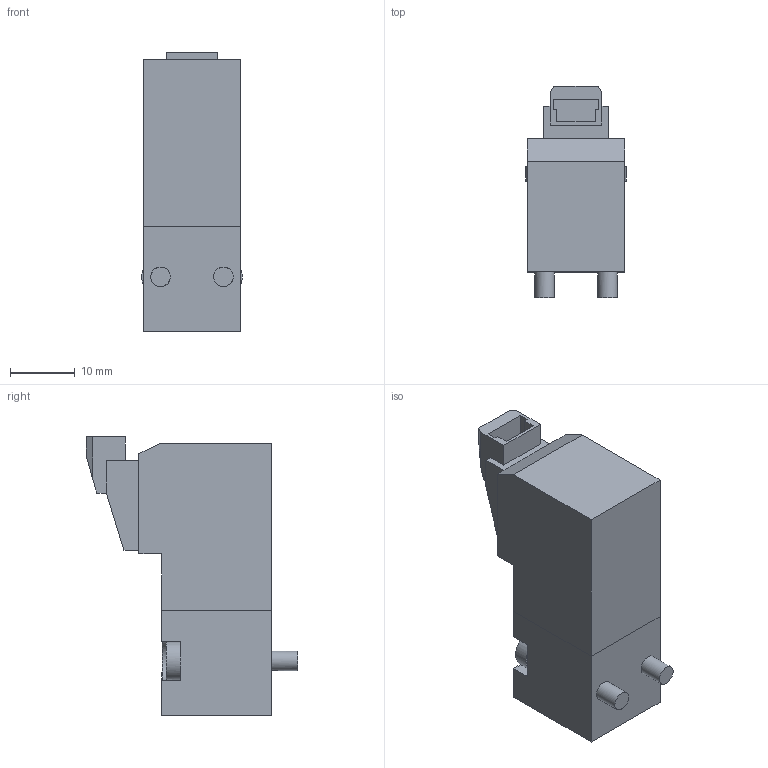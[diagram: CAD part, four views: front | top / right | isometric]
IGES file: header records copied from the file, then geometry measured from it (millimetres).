
Global section: file name: N3##_7#-8; native system: Autodesk Inventor 2014; preprocessor: unknown; author: A. Manieri; organization: Pneumax S.p.A.; date: 20160913.142010; units: millimetre
Bounding box: 15.5 x 32.6 x 42.97 mm (x, y, z)
Volume: 12257.5 mm3; surface area: 4114.6 mm2
Topology: 1 solids, 1 shells, 97 faces, 251 edges, 164 vertices
Faces by surface type: bspline 97
